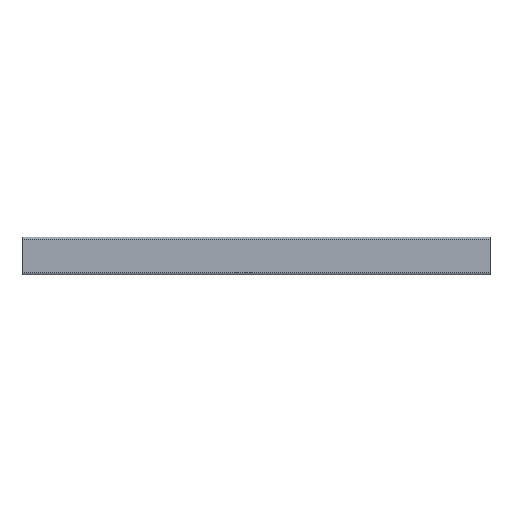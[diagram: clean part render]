
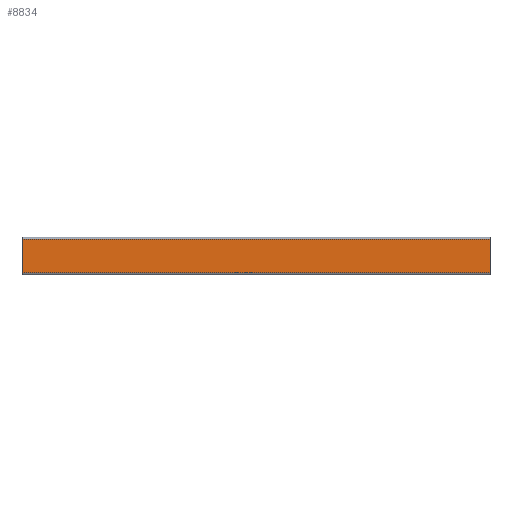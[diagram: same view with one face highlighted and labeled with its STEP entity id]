
A CAD part, front view. The second image highlights one B-rep face of the part: STEP entity #8834.
In plain terms, the highlighted planar face has unit normal (0, -1, 0).
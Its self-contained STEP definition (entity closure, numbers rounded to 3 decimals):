
#268 = DIRECTION ( 'NONE',  ( 0., 0., -1. ) ) ;
#328 = VECTOR ( 'NONE', #3620, 1000. ) ;
#1183 = VERTEX_POINT ( 'NONE', #7738 ) ;
#1343 = VERTEX_POINT ( 'NONE', #8917 ) ;
#1489 = VECTOR ( 'NONE', #8735, 1000. ) ;
#2699 = DIRECTION ( 'NONE',  ( 0., 0., 1. ) ) ;
#3201 = CARTESIAN_POINT ( 'NONE',  ( 0., -40., 36. ) ) ;
#3620 = DIRECTION ( 'NONE',  ( -1., 0., 0. ) ) ;
#3884 = ORIENTED_EDGE ( 'NONE', *, *, #6782, .F. ) ;
#4896 = LINE ( 'NONE', #10665, #9288 ) ;
#4933 = AXIS2_PLACEMENT_3D ( 'NONE', #7049, #7922, #2699 ) ;
#5233 = ORIENTED_EDGE ( 'NONE', *, *, #8628, .F. ) ;
#5267 = EDGE_LOOP ( 'NONE', ( #8798, #3884, #5233, #10946 ) ) ;
#5679 = FACE_OUTER_BOUND ( 'NONE', #5267, .T. ) ;
#5820 = LINE ( 'NONE', #7001, #1489 ) ;
#6160 = PLANE ( 'NONE',  #4933 ) ;
#6437 = LINE ( 'NONE', #8571, #10769 ) ;
#6782 = EDGE_CURVE ( 'NONE', #8021, #1183, #7272, .T. ) ;
#7001 = CARTESIAN_POINT ( 'NONE',  ( 1000., -40., 36. ) ) ;
#7049 = CARTESIAN_POINT ( 'NONE',  ( 1000., -40., 36. ) ) ;
#7272 = LINE ( 'NONE', #8848, #328 ) ;
#7738 = CARTESIAN_POINT ( 'NONE',  ( 0., -40., -36. ) ) ;
#7922 = DIRECTION ( 'NONE',  ( 0., 1., 0. ) ) ;
#8021 = VERTEX_POINT ( 'NONE', #9080 ) ;
#8401 = VERTEX_POINT ( 'NONE', #3201 ) ;
#8571 = CARTESIAN_POINT ( 'NONE',  ( 1000., -40., 36. ) ) ;
#8628 = EDGE_CURVE ( 'NONE', #1343, #8021, #5820, .T. ) ;
#8735 = DIRECTION ( 'NONE',  ( 0., 0., -1. ) ) ;
#8798 = ORIENTED_EDGE ( 'NONE', *, *, #10312, .T. ) ;
#8834 = ADVANCED_FACE ( 'NONE', ( #5679 ), #6160, .F. ) ;
#8848 = CARTESIAN_POINT ( 'NONE',  ( 1000., -40., -36. ) ) ;
#8917 = CARTESIAN_POINT ( 'NONE',  ( 1000., -40., 36. ) ) ;
#9080 = CARTESIAN_POINT ( 'NONE',  ( 1000., -40., -36. ) ) ;
#9288 = VECTOR ( 'NONE', #268, 1000. ) ;
#9953 = EDGE_CURVE ( 'NONE', #1343, #8401, #6437, .T. ) ;
#10312 = EDGE_CURVE ( 'NONE', #8401, #1183, #4896, .T. ) ;
#10665 = CARTESIAN_POINT ( 'NONE',  ( 0., -40., 36. ) ) ;
#10769 = VECTOR ( 'NONE', #11257, 1000. ) ;
#10946 = ORIENTED_EDGE ( 'NONE', *, *, #9953, .T. ) ;
#11257 = DIRECTION ( 'NONE',  ( -1., 0., 0. ) ) ;
